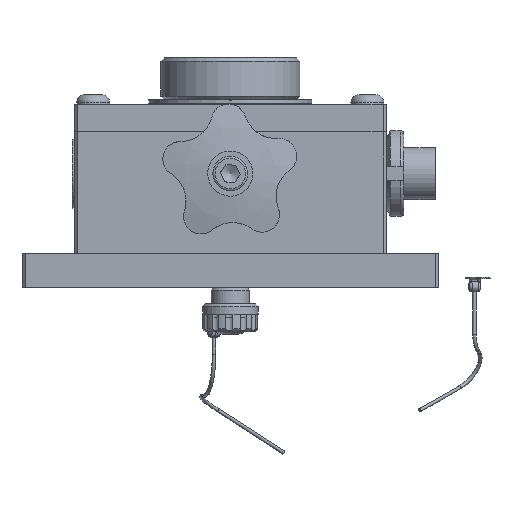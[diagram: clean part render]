
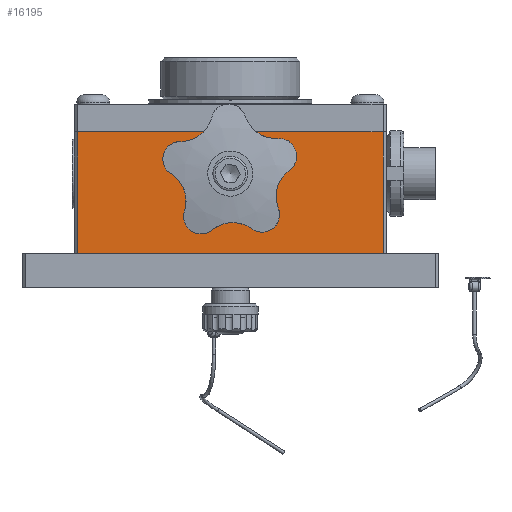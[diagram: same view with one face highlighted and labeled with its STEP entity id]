
A CAD part, front view. The second image highlights one B-rep face of the part: STEP entity #16195.
In plain terms, the highlighted planar face has unit normal (0, -1, 0) as drawn and (1, 0, 0) by its records, which use the part's own axes.
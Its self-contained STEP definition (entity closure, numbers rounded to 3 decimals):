
#1086=FACE_BOUND('',#2838,.T.);
#1268=PLANE('',#17864);
#1881=FACE_OUTER_BOUND('',#2837,.T.);
#2837=EDGE_LOOP('',(#11655,#11656,#11657,#11658));
#2838=EDGE_LOOP('',(#11659));
#3928=LINE('',#24202,#5375);
#3945=LINE('',#24243,#5392);
#3950=LINE('',#24265,#5397);
#3951=LINE('',#24267,#5398);
#5375=VECTOR('',#19631,10.);
#5392=VECTOR('',#19668,10.);
#5397=VECTOR('',#19691,10.);
#5398=VECTOR('',#19694,10.);
#6816=CIRCLE('',#17831,6.959);
#7469=VERTEX_POINT('',#24155);
#7488=VERTEX_POINT('',#24199);
#7489=VERTEX_POINT('',#24201);
#7502=VERTEX_POINT('',#24240);
#7503=VERTEX_POINT('',#24242);
#9108=EDGE_CURVE('',#7469,#7469,#6816,.T.);
#9128=EDGE_CURVE('',#7489,#7488,#3928,.T.);
#9151=EDGE_CURVE('',#7502,#7503,#3945,.T.);
#9164=EDGE_CURVE('',#7503,#7488,#3950,.T.);
#9165=EDGE_CURVE('',#7489,#7502,#3951,.T.);
#11655=ORIENTED_EDGE('',*,*,#9164,.F.);
#11656=ORIENTED_EDGE('',*,*,#9151,.F.);
#11657=ORIENTED_EDGE('',*,*,#9165,.F.);
#11658=ORIENTED_EDGE('',*,*,#9128,.T.);
#11659=ORIENTED_EDGE('',*,*,#9108,.T.);
#16195=ADVANCED_FACE('',(#1881,#1086),#1268,.T.);
#17831=AXIS2_PLACEMENT_3D('',#24157,#19592,#19593);
#17864=AXIS2_PLACEMENT_3D('',#24266,#19692,#19693);
#19592=DIRECTION('center_axis',(-1.,0.,0.));
#19593=DIRECTION('ref_axis',(0.,0.,
1.));
#19631=DIRECTION('',(0.,0.,1.));
#19668=DIRECTION('',(0.,0.,1.));
#19691=DIRECTION('',(0.,1.,0.));
#19692=DIRECTION('center_axis',(1.,0.,0.));
#19693=DIRECTION('ref_axis',(0.,1.,0.));
#19694=DIRECTION('',(0.,-1.,0.));
#24155=CARTESIAN_POINT('',(40.,5.5,38.041));
#24157=CARTESIAN_POINT('Origin',(40.,5.5,45.));
#24199=CARTESIAN_POINT('',(40.,17.5,89.));
#24201=CARTESIAN_POINT('',(40.,17.5,1.));
#24202=CARTESIAN_POINT('',(40.,17.5,0.));
#24240=CARTESIAN_POINT('',(40.,-17.5,1.));
#24242=CARTESIAN_POINT('',(40.,-17.5,89.));
#24243=CARTESIAN_POINT('',(40.,-17.5,0.));
#24265=CARTESIAN_POINT('',(40.,-8.75,89.));
#24266=CARTESIAN_POINT('Origin',(40.,-17.5,0.));
#24267=CARTESIAN_POINT('',(40.,-8.75,1.));
